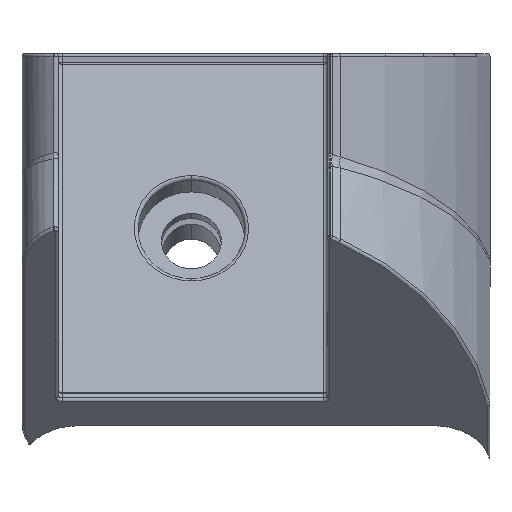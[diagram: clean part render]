
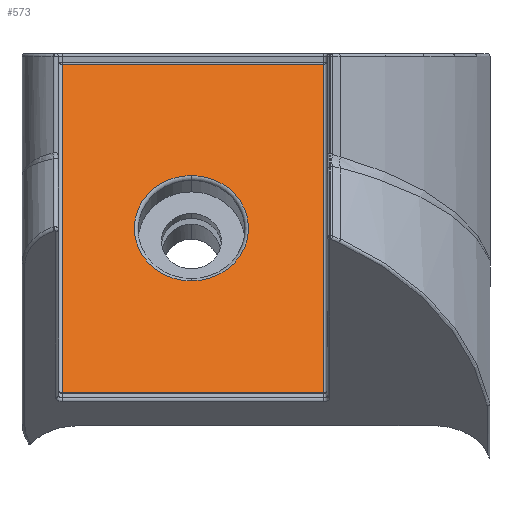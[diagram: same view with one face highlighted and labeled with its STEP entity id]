
A CAD part, left-side view. The second image highlights one B-rep face of the part: STEP entity #573.
In plain terms, the highlighted planar face has unit normal (-0.924, 0, 0.383).
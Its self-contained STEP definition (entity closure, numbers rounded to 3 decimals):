
#22 = EDGE_LOOP ( 'NONE', ( #967, #1405 ) ) ;
#71 = DIRECTION ( 'NONE',  ( 0.924, 0., -0.383 ) ) ;
#134 = CARTESIAN_POINT ( 'NONE',  ( -4.894, 10.35, 27.564 ) ) ;
#165 = VERTEX_POINT ( 'NONE', #3500 ) ;
#218 = LINE ( 'NONE', #326, #2263 ) ;
#240 = VERTEX_POINT ( 'NONE', #500 ) ;
#326 = CARTESIAN_POINT ( 'NONE',  ( -4.894, -3.6, 27.564 ) ) ;
#398 = DIRECTION ( 'NONE',  ( -0.383, 0., -0.924 ) ) ;
#500 = CARTESIAN_POINT ( 'NONE',  ( -14.472, 10.35, 4.441 ) ) ;
#511 = VECTOR ( 'NONE', #3074, 1000. ) ;
#539 = FACE_BOUND ( 'NONE', #22, .T. ) ;
#573 = ADVANCED_FACE ( 'NONE', ( #539, #1705 ), #1939, .F. ) ;
#694 = LINE ( 'NONE', #2932, #1415 ) ;
#702 = ORIENTED_EDGE ( 'NONE', *, *, #2908, .T. ) ;
#819 = VERTEX_POINT ( 'NONE', #3015 ) ;
#848 = DIRECTION ( 'NONE',  ( 0.924, 0., -0.383 ) ) ;
#884 = ORIENTED_EDGE ( 'NONE', *, *, #2233, .T. ) ;
#903 = CARTESIAN_POINT ( 'NONE',  ( -21.735, 11.5, -13.094 ) ) ;
#967 = ORIENTED_EDGE ( 'NONE', *, *, #1608, .T. ) ;
#1026 = DIRECTION ( 'NONE',  ( -0.383, 0., -0.924 ) ) ;
#1279 = DIRECTION ( 'NONE',  ( -0.383, 0., -0.924 ) ) ;
#1294 = DIRECTION ( 'NONE',  ( 0.924, 0., -0.383 ) ) ;
#1295 = AXIS2_PLACEMENT_3D ( 'NONE', #2846, #1294, #1279 ) ;
#1315 = EDGE_LOOP ( 'NONE', ( #2011, #702, #3532, #884 ) ) ;
#1373 = DIRECTION ( 'NONE',  ( 0., 1., 0. ) ) ;
#1398 = EDGE_CURVE ( 'NONE', #165, #3641, #218, .T. ) ;
#1405 = ORIENTED_EDGE ( 'NONE', *, *, #2107, .T. ) ;
#1415 = VECTOR ( 'NONE', #1373, 1000. ) ;
#1422 = VERTEX_POINT ( 'NONE', #2000 ) ;
#1431 = CIRCLE ( 'NONE', #3956, 3.05 ) ;
#1514 = CIRCLE ( 'NONE', #3570, 3.05 ) ;
#1608 = EDGE_CURVE ( 'NONE', #1422, #819, #1431, .T. ) ;
#1651 = CARTESIAN_POINT ( 'NONE',  ( -18.104, 3.45, -4.326 ) ) ;
#1697 = EDGE_CURVE ( 'NONE', #240, #2482, #1908, .T. ) ;
#1705 = FACE_OUTER_BOUND ( 'NONE', #1315, .T. ) ;
#1767 = VECTOR ( 'NONE', #398, 1000. ) ;
#1772 = DIRECTION ( 'NONE',  ( -0.383, 0., -0.924 ) ) ;
#1852 = DIRECTION ( 'NONE',  ( 0.383, 0., 0.924 ) ) ;
#1908 = LINE ( 'NONE', #134, #1767 ) ;
#1939 = PLANE ( 'NONE',  #1295 ) ;
#2000 = CARTESIAN_POINT ( 'NONE',  ( -19.271, 3.45, -7.144 ) ) ;
#2011 = ORIENTED_EDGE ( 'NONE', *, *, #1398, .T. ) ;
#2082 = CARTESIAN_POINT ( 'NONE',  ( -18.104, 3.45, -4.326 ) ) ;
#2107 = EDGE_CURVE ( 'NONE', #819, #1422, #1514, .T. ) ;
#2233 = EDGE_CURVE ( 'NONE', #2482, #165, #3785, .T. ) ;
#2263 = VECTOR ( 'NONE', #1852, 1000. ) ;
#2379 = CARTESIAN_POINT ( 'NONE',  ( -21.735, 10.35, -13.094 ) ) ;
#2482 = VERTEX_POINT ( 'NONE', #2379 ) ;
#2846 = CARTESIAN_POINT ( 'NONE',  ( -4.894, 11.5, 27.564 ) ) ;
#2908 = EDGE_CURVE ( 'NONE', #3641, #240, #694, .T. ) ;
#2932 = CARTESIAN_POINT ( 'NONE',  ( -14.472, 11.5, 4.441 ) ) ;
#2966 = CARTESIAN_POINT ( 'NONE',  ( -14.472, -3.6, 4.441 ) ) ;
#3015 = CARTESIAN_POINT ( 'NONE',  ( -16.937, 3.45, -1.509 ) ) ;
#3074 = DIRECTION ( 'NONE',  ( 0., -1., 0. ) ) ;
#3500 = CARTESIAN_POINT ( 'NONE',  ( -21.735, -3.6, -13.094 ) ) ;
#3532 = ORIENTED_EDGE ( 'NONE', *, *, #1697, .T. ) ;
#3570 = AXIS2_PLACEMENT_3D ( 'NONE', #2082, #848, #1772 ) ;
#3641 = VERTEX_POINT ( 'NONE', #2966 ) ;
#3785 = LINE ( 'NONE', #903, #511 ) ;
#3956 = AXIS2_PLACEMENT_3D ( 'NONE', #1651, #71, #1026 ) ;
